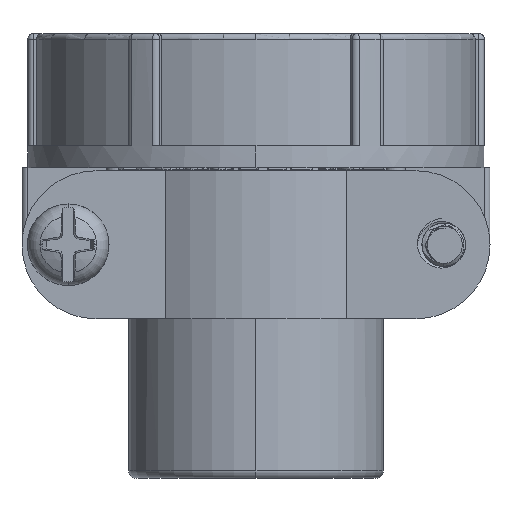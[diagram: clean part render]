
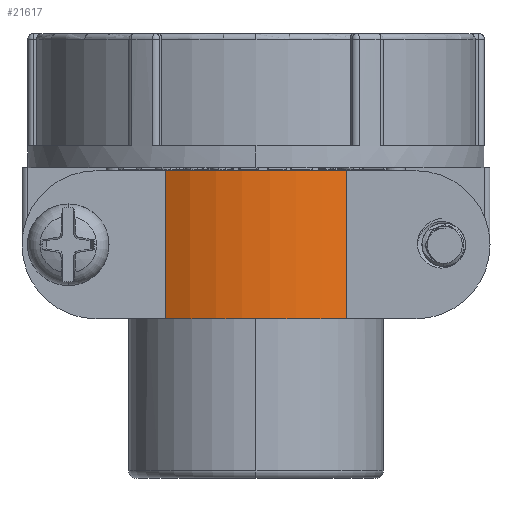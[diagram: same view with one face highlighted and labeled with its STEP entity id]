
A CAD part, left-side view. The second image highlights one B-rep face of the part: STEP entity #21617.
In plain terms, the highlighted cylindrical face has radius 16.1 mm (diameter 32.2 mm), a partial arc.
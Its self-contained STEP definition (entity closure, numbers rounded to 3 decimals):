
#1048 = LINE ( 'NONE', #20919, #38242 ) ;
#2178 = LINE ( 'NONE', #27668, #29880 ) ;
#2871 = CARTESIAN_POINT ( 'NONE',  ( -14.6, -8.293, -12.6 ) ) ;
#3692 = CARTESIAN_POINT ( 'NONE',  ( -0.8, 0., -26.2 ) ) ;
#4288 = ORIENTED_EDGE ( 'NONE', *, *, #25122, .T. ) ;
#7328 = DIRECTION ( 'NONE',  ( 1., 0., 0. ) ) ;
#7330 = CIRCLE ( 'NONE', #20848, 16.1 ) ;
#7619 = EDGE_LOOP ( 'NONE', ( #36916, #13629, #12876, #4288 ) ) ;
#12818 = AXIS2_PLACEMENT_3D ( 'NONE', #36341, #15459, #15129 ) ;
#12876 = ORIENTED_EDGE ( 'NONE', *, *, #25324, .F. ) ;
#13629 = ORIENTED_EDGE ( 'NONE', *, *, #25185, .F. ) ;
#15129 = DIRECTION ( 'NONE',  ( 1., 0., 0. ) ) ;
#15459 = DIRECTION ( 'NONE',  ( 0., 0., 1. ) ) ;
#17311 = DIRECTION ( 'NONE',  ( 0., 0., -1. ) ) ;
#20488 = VERTEX_POINT ( 'NONE', #29271 ) ;
#20765 = VERTEX_POINT ( 'NONE', #2871 ) ;
#20848 = AXIS2_PLACEMENT_3D ( 'NONE', #3692, #28924, #7328 ) ;
#20919 = CARTESIAN_POINT ( 'NONE',  ( -14.6, 8.293, -26.2 ) ) ;
#21617 = ADVANCED_FACE ( 'NONE', ( #29516 ), #46077, .T. ) ;
#22059 = VERTEX_POINT ( 'NONE', #22738 ) ;
#22738 = CARTESIAN_POINT ( 'NONE',  ( -14.6, 8.293, -12.6 ) ) ;
#24244 = DIRECTION ( 'NONE',  ( 0., 0., 1. ) ) ;
#24403 = DIRECTION ( 'NONE',  ( 0., 0., 1. ) ) ;
#25122 = EDGE_CURVE ( 'NONE', #27283, #20765, #2178, .T. ) ;
#25133 = EDGE_CURVE ( 'NONE', #20765, #22059, #39349, .T. ) ;
#25185 = EDGE_CURVE ( 'NONE', #20488, #22059, #1048, .T. ) ;
#25324 = EDGE_CURVE ( 'NONE', #27283, #20488, #7330, .T. ) ;
#27283 = VERTEX_POINT ( 'NONE', #39751 ) ;
#27668 = CARTESIAN_POINT ( 'NONE',  ( -14.6, -8.293, -26.2 ) ) ;
#28924 = DIRECTION ( 'NONE',  ( 0., 0., -1. ) ) ;
#29271 = CARTESIAN_POINT ( 'NONE',  ( -14.6, 8.293, -26.2 ) ) ;
#29516 = FACE_OUTER_BOUND ( 'NONE', #7619, .T. ) ;
#29880 = VECTOR ( 'NONE', #24244, 1000. ) ;
#36341 = CARTESIAN_POINT ( 'NONE',  ( -0.8, 0., -26.2 ) ) ;
#36916 = ORIENTED_EDGE ( 'NONE', *, *, #25133, .T. ) ;
#38242 = VECTOR ( 'NONE', #24403, 1000. ) ;
#38361 = AXIS2_PLACEMENT_3D ( 'NONE', #38595, #17311, #42092 ) ;
#38595 = CARTESIAN_POINT ( 'NONE',  ( -0.8, 0., -12.6 ) ) ;
#39349 = CIRCLE ( 'NONE', #38361, 16.1 ) ;
#39751 = CARTESIAN_POINT ( 'NONE',  ( -14.6, -8.293, -26.2 ) ) ;
#42092 = DIRECTION ( 'NONE',  ( 1., 0., 0. ) ) ;
#46077 = CYLINDRICAL_SURFACE ( 'NONE', #12818, 16.1 ) ;
